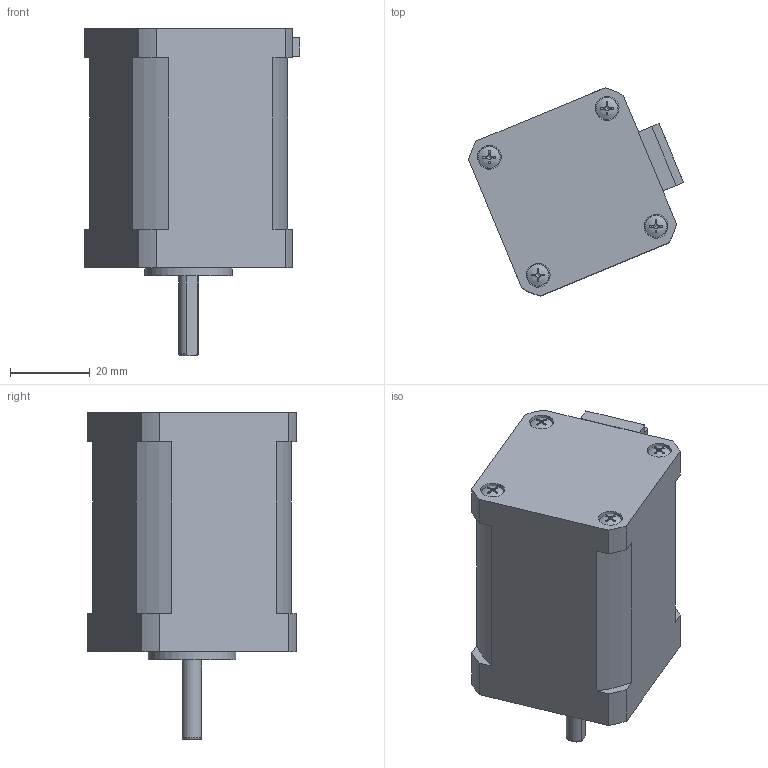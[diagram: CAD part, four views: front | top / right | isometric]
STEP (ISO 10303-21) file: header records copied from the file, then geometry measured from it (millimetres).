
FILE_DESCRIPTION(/* description */ (''),/* implementation_level */ '2;1');
FILE_NAME(/* name */ 'JK42HS60-1704A.step',/* time_stamp */ '2019-12-03T13:40:27+08:00',/* author */ (''),/* organization */ (''),/* preprocessor_version */ 'ST-DEVELOPER v14',/* originating_system */ 'SIEMENS PLM Software NX 8.0',/* authorisation */ '');
FILE_SCHEMA (('AUTOMOTIVE_DESIGN { 1 0 10303 214 3 1 1 1 }'));
Products named in the file (3): M3-luoding; dianjizhuti; JK42HS60-1704A
Assembly tree (5 placements, depth 2):
  JK42HS60-1704A
    dianjizhuti
    M3-luoding  x4
Bounding box: 53.93 x 52.22 x 82.11 mm (x, y, z)
Volume: 102584.5 mm3; surface area: 16455.7 mm2
Topology: 14 solids, 14 shells, 261 faces, 645 edges, 422 vertices
Faces by surface type: plane 137, cylinder 55, cone 32, torus 21, bspline 12, sphere 4
Full cylindrical faces by diameter (mm): 0.2 x5, 2.458 x4, 2.459 x4, 2.675 x4, 3 x4, 3.5 x4, 5.45 x4, 6 x4, 22.03 x1
Entity records: 41743 total; most frequent: CARTESIAN_POINT 38465, ORIENTED_EDGE 632, DIRECTION 615, EDGE_CURVE 316, AXIS2_PLACEMENT_3D 244, VERTEX_POINT 224, EDGE_LOOP 187, ADVANCED_FACE 147
